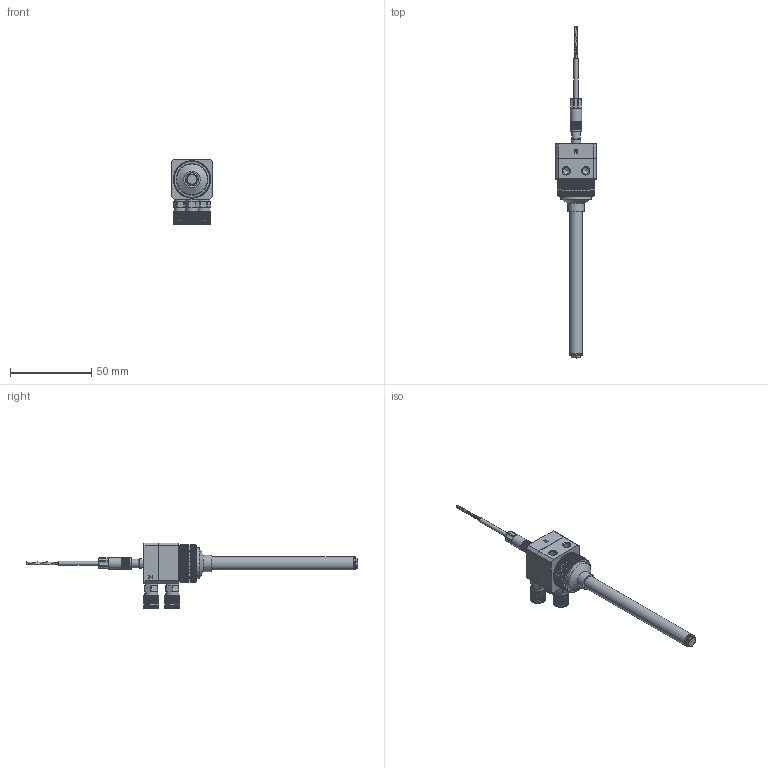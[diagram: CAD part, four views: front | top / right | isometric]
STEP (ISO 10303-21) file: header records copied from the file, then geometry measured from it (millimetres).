
FILE_DESCRIPTION (( 'STEP AP214' ), '1' );
FILE_NAME ('DAS-30-100-8-HP-SENSOR.STEP', '2024-10-11T09:57:14', ( '' ), ( '' ), 'SwSTEP 2.0', 'SolidWorks 2024', '' );
FILE_SCHEMA (( 'AUTOMOTIVE_DESIGN' ));
Length unit declared in the file: millimetre
Products named in the file (1): DAS-30-100-8-HP-SENSOR
Bounding box: 25 x 204 x 40.5 mm (x, y, z)
Volume: 25467.4 mm3; surface area: 14883.9 mm2
Topology: 2 solids, 3 shells, 1760 faces, 4689 edges, 2982 vertices
Faces by surface type: plane 1059, cylinder 447, cone 239, bspline 15
Full cylindrical faces by diameter (mm): 0.8 x3, 1.5 x4, 2.5 x1, 3 x3, 3.2 x1, 4 x5, 4.198 x2, 4.2 x2, 4.5 x3, 5 x2, 5.001 x1, 5.4 x4, 5.5 x4, 5.7 x3, 5.8 x1, 6 x1, 6.2 x3, 6.8 x1, 7 x2, 7.498 x3, 7.5 x3, 8 x9, 8.001 x1, 8.2 x1, 8.7 x3, 10 x2, 19 x1, 19.2 x1, 19.8 x1, 20.2 x1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
Entity records: 58015 total; most frequent: CARTESIAN_POINT 15898, ORIENTED_EDGE 8910, DIRECTION 8413, EDGE_CURVE 4455, AXIS2_PLACEMENT_3D 2949, VERTEX_POINT 2899, VECTOR 2515, LINE 2515
